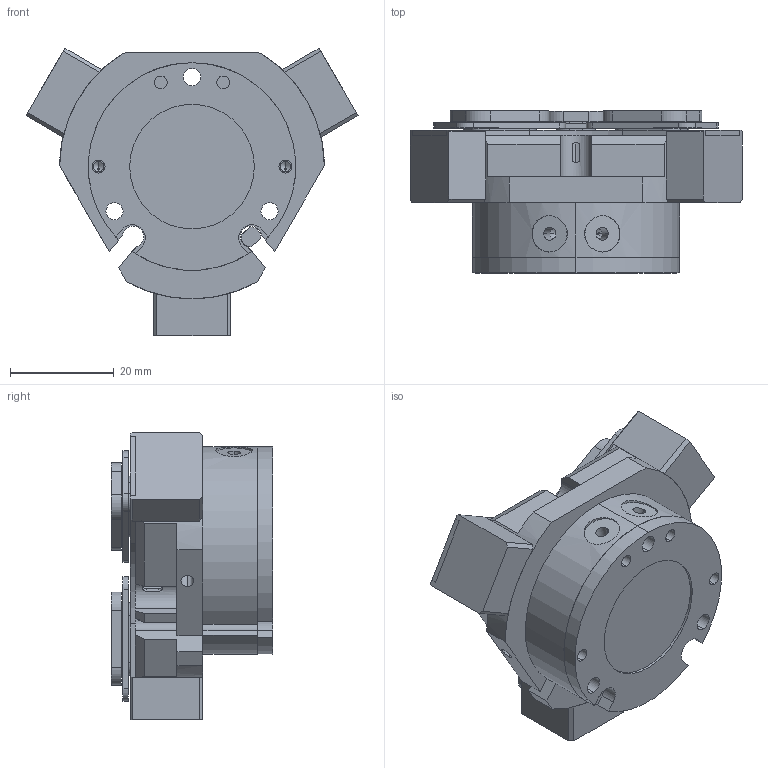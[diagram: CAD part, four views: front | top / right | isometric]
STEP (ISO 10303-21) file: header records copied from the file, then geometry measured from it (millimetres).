
FILE_DESCRIPTION (( 'STEP AP214' ), '1' );
FILE_NAME ('FCT 40A-1-SD.STEP', '2021-09-15T09:46:30', ( 'DEEP' ), ( 'Microsoft' ), 'SwSTEP 2.0', 'SolidWorks 2016', '' );
FILE_SCHEMA (( 'AUTOMOTIVE_DESIGN' ));
Length unit declared in the file: millimetre
Products named in the file (28): FCT 40A-1-002; FCT 40A-1-001; FCT 40A-1-006; FCT 40A-1-003; FCT  40A-1-SD; FCT 40A-1-SD; FCT 40A-1-SD-003; FCT 40A-1-SD-004; FCT 40A-1-SD-002; FCT 40A-1-SD-001; FCT 40A-1-004
Assembly tree (18 placements, depth 3):
  FCT 40A-1-002
  FCT 40A-1-002
  FCT 40A-1-002
  FCT 40A-1-001
  FCT 40A-1-006
Bounding box: 63.96 x 31.2 x 55.4 mm (x, y, z)
Volume: 42201.1 mm3; surface area: 25475.8 mm2
Topology: 17 solids, 17 shells, 599 faces, 1568 edges, 1012 vertices
Faces by surface type: plane 334, cylinder 205, cone 60
Entity records: 13059 total; most frequent: CARTESIAN_POINT 2510, DIRECTION 2126, ORIENTED_EDGE 2020, EDGE_CURVE 1010, AXIS2_PLACEMENT_3D 742, VERTEX_POINT 664, VECTOR 642, LINE 642
